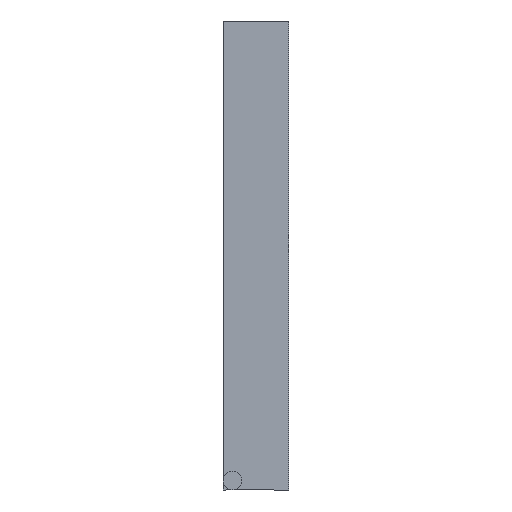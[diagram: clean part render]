
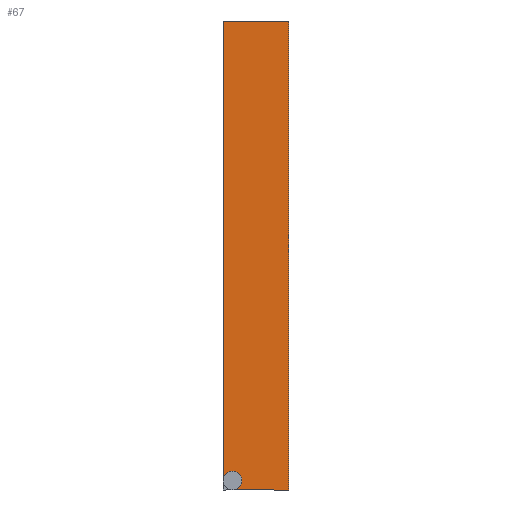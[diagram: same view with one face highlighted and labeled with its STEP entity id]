
A CAD part, left-side view. The second image highlights one B-rep face of the part: STEP entity #67.
In plain terms, the highlighted planar face has unit normal (-1, 0, 0).
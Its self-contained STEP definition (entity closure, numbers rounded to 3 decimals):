
#67=ADVANCED_FACE('',(#173),#175,.T.);
#173=FACE_BOUND('',#174,.T.);
#174=EDGE_LOOP('',(#257,#258,#259,#260,#261));
#175=PLANE('',#176);
#176=AXIS2_PLACEMENT_3D('',#177,#178,#179);
#177=CARTESIAN_POINT('',(-24.,-1.4,0.));
#178=DIRECTION('',(-1.,0.,0.));
#179=DIRECTION('',(0.,0.,1.));
#257=ORIENTED_EDGE('',*,*,#301,.F.);
#258=ORIENTED_EDGE('',*,*,#302,.F.);
#259=ORIENTED_EDGE('',*,*,#303,.T.);
#260=ORIENTED_EDGE('',*,*,#304,.T.);
#261=ORIENTED_EDGE('',*,*,#305,.F.);
#301=EDGE_CURVE('',#321,#320,#326,.F.);
#302=EDGE_CURVE('',#327,#321,#328,.T.);
#303=EDGE_CURVE('',#327,#329,#330,.T.);
#304=EDGE_CURVE('',#329,#331,#332,.T.);
#305=EDGE_CURVE('',#320,#331,#333,.T.);
#320=VERTEX_POINT('',#356);
#321=VERTEX_POINT('',#357);
#326=CIRCLE('',#369,0.4);
#327=VERTEX_POINT('',#373);
#328=LINE('',#374,#375);
#329=VERTEX_POINT('',#377);
#330=LINE('',#378,#379);
#331=VERTEX_POINT('',#381);
#332=LINE('',#382,#383);
#333=LINE('',#385,#386);
#356=CARTESIAN_POINT('',(-24.,1.4,0.4));
#357=CARTESIAN_POINT('',(-24.,1.,0.));
#369=AXIS2_PLACEMENT_3D('',#370,#371,#372);
#370=CARTESIAN_POINT('',(-24.,1.,0.4));
#371=DIRECTION('',(1.,0.,0.));
#372=DIRECTION('',(0.,1.,0.));
#373=CARTESIAN_POINT('',(-24.,-1.4,0.));
#374=CARTESIAN_POINT('',(-24.,-1.4,0.));
#375=VECTOR('',#376,1.);
#376=DIRECTION('',(0.,1.,0.));
#377=CARTESIAN_POINT('',(-24.,-1.4,20.));
#378=CARTESIAN_POINT('',(-24.,-1.4,0.));
#379=VECTOR('',#380,1.);
#380=DIRECTION('',(0.,0.,1.));
#381=CARTESIAN_POINT('',(-24.,1.4,20.));
#382=CARTESIAN_POINT('',(-24.,-1.4,20.));
#383=VECTOR('',#384,1.);
#384=DIRECTION('',(0.,1.,0.));
#385=CARTESIAN_POINT('',(-24.,1.4,0.4));
#386=VECTOR('',#387,1.);
#387=DIRECTION('',(0.,0.,1.));
